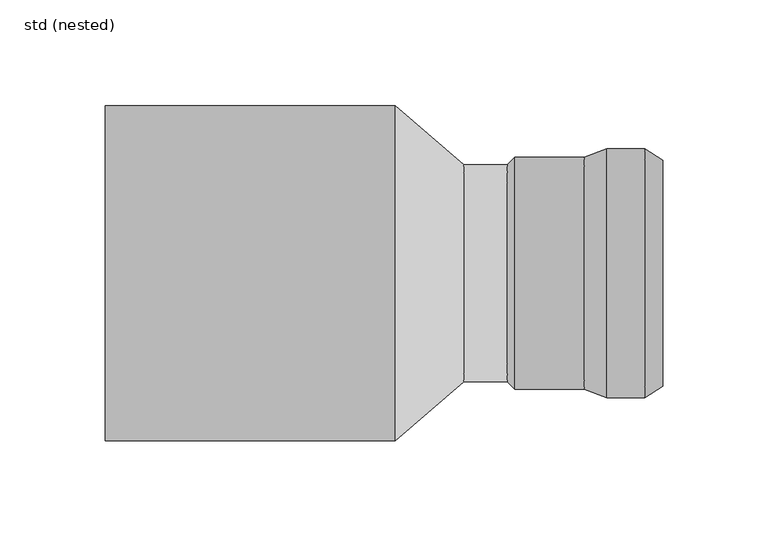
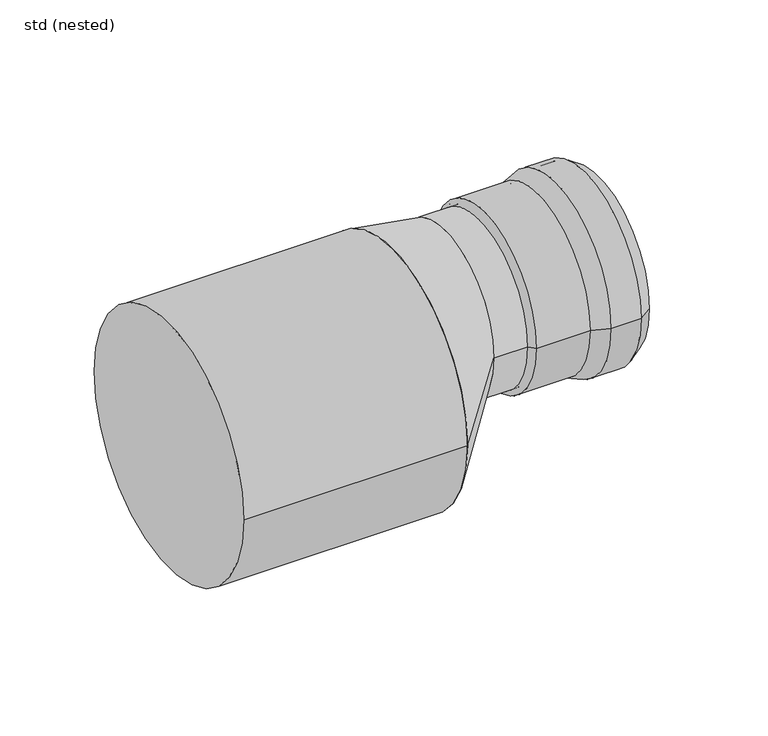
"""IFC4 building model written with IfcOpenShell, lengths in millimetres: pipe fitting geometry, ZZZ_do not use_PIF_ST_UN_GM-X transition element_ACO : std (nested)."""

from ifc_helpers import new_model, si_unit, point, frame, frame_2d, origin, origin_2d, place, context, project, spatial, polyline, circle_curve, trimmed, segment, composite_curve, outline, extrude, source, transform, mapped, element, save
from ifc_brep_helpers import plane_surface, cylinder_surface, revolved_surface, spline_surface, advanced_brep


def std_nested_30a605e0(model_context):
    return source(origin(), model_context, "Body", "SolidModel", [
        advanced_brep(
        [(140.5, -59.0, 28.5), (140.5, 59.0, 28.5), (158.7, 59.0, 28.5), (158.7, -59.0, 28.5), (130.0, -55.0, 28.5), (130.0, 55.0, 28.5), (167.0, 53.5, 28.5), (167.0, -53.5, 28.5), (97.0, -55.0, 28.5), (97.0, 55.0, 28.5), (93.5, -51.5, 28.5), (93.5, 51.5, 28.5), (97.0, -51.5, 28.5), (97.0, 51.5, 28.5), (130.3680513, -53.0, 28.5), (130.3680513, 53.0, 28.5), (97.0, 53.0, 28.5), (97.0, -53.0, 28.5), (140.8680513, -57.0, 28.5), (140.8680513, 57.0, 28.5), (158.0974883, -57.0, 28.5), (158.0974883, 57.0, 28.5), (165.8952393, -51.8328156, 28.5), (165.8952393, 51.8328156, 28.5)],
        [
            (0, 1, circle_curve(frame((140.5, 0.0, 28.5), z_axis=(1.0, 0.0, 0.0), x_axis=(0.0, 1.0, 0.0)), 59.0)),
            (1, 2),
            (2, 3, circle_curve(frame((158.7, 0.0, 28.5), z_axis=(-1.0, 0.0, 0.0), x_axis=(0.0, 1.0, 0.0)), 59.0)),
            (3, 0),
            (1, 0, circle_curve(frame((140.5, 0.0, 28.5), z_axis=(1.0, 0.0, 0.0), x_axis=(0.0, 1.0, 0.0)), 59.0)),
            (3, 2, circle_curve(frame((158.7, 0.0, 28.5), z_axis=(-1.0, 0.0, 0.0), x_axis=(0.0, 1.0, 0.0)), 59.0)),
            (4, 5, circle_curve(frame((130.0, 0.0, 28.5), z_axis=(1.0, 0.0, 0.0), x_axis=(0.0, 1.0, 0.0)), 55.0)),
            (5, 1),
            (0, 4),
            (5, 4, circle_curve(frame((130.0, 0.0, 28.5), z_axis=(1.0, 0.0, 0.0), x_axis=(0.0, 1.0, 0.0)), 55.0)),
            (2, 6),
            (6, 7, circle_curve(frame((167.0, 0.0, 28.5), z_axis=(-1.0, 0.0, 0.0), x_axis=(0.0, 1.0, 0.0)), 53.5)),
            (7, 3),
            (7, 6, circle_curve(frame((167.0, 0.0, 28.5), z_axis=(-1.0, 0.0, 0.0), x_axis=(0.0, 1.0, 0.0)), 53.5)),
            (8, 9, circle_curve(frame((97.0, 0.0, 28.5), z_axis=(1.0, 0.0, 0.0), x_axis=(0.0, 1.0, 0.0)), 55.0)),
            (9, 5),
            (4, 8),
            (9, 8, circle_curve(frame((97.0, 0.0, 28.5), z_axis=(1.0, 0.0, 0.0), x_axis=(0.0, 1.0, 0.0)), 55.0)),
            (10, 11, circle_curve(frame((93.5, 0.0, 28.5), z_axis=(1.0, 0.0, 0.0), x_axis=(0.0, 1.0, 0.0)), 51.5)),
            (11, 9),
            (8, 10),
            (11, 10, circle_curve(frame((93.5, 0.0, 28.5), z_axis=(1.0, 0.0, 0.0), x_axis=(0.0, 1.0, 0.0)), 51.5)),
            (12, 13, circle_curve(frame((97.0, 0.0, 28.5), z_axis=(1.0, 0.0, 0.0), x_axis=(0.0, 1.0, 0.0)), 51.5)),
            (13, 11),
            (10, 12),
            (13, 12, circle_curve(frame((97.0, 0.0, 28.5), z_axis=(1.0, 0.0, 0.0), x_axis=(0.0, 1.0, 0.0)), 51.5)),
            (14, 15, circle_curve(frame((130.3680513, 0.0, 28.5), z_axis=(1.0, 0.0, 0.0), x_axis=(0.0, 1.0, 0.0)), 53.0)),
            (15, 16),
            (16, 17, circle_curve(frame((97.0, 0.0, 28.5), z_axis=(-1.0, 0.0, 0.0), x_axis=(0.0, 1.0, 0.0)), 53.0)),
            (17, 14),
            (15, 14, circle_curve(frame((130.3680513, 0.0, 28.5), z_axis=(1.0, 0.0, 0.0), x_axis=(0.0, 1.0, 0.0)), 53.0)),
            (17, 16, circle_curve(frame((97.0, 0.0, 28.5), z_axis=(-1.0, 0.0, 0.0), x_axis=(0.0, 1.0, 0.0)), 53.0)),
            (18, 19, circle_curve(frame((140.8680513, 0.0, 28.5), z_axis=(1.0, 0.0, 0.0), x_axis=(0.0, 1.0, 0.0)), 57.0)),
            (19, 15),
            (14, 18),
            (19, 18, circle_curve(frame((140.8680513, 0.0, 28.5), z_axis=(1.0, 0.0, 0.0), x_axis=(0.0, 1.0, 0.0)), 57.0)),
            (20, 21, circle_curve(frame((158.0974883, 0.0, 28.5), z_axis=(1.0, 0.0, 0.0), x_axis=(0.0, 1.0, 0.0)), 57.0)),
            (21, 19),
            (18, 20),
            (21, 20, circle_curve(frame((158.0974883, 0.0, 28.5), z_axis=(1.0, 0.0, 0.0), x_axis=(0.0, 1.0, 0.0)), 57.0)),
            (22, 23, circle_curve(frame((165.8952393, 0.0, 28.5), z_axis=(1.0, 0.0, 0.0), x_axis=(0.0, 1.0, 0.0)), 51.8328156)),
            (23, 21),
            (20, 22),
            (23, 22, circle_curve(frame((165.8952393, 0.0, 28.5), z_axis=(1.0, 0.0, 0.0), x_axis=(0.0, 1.0, 0.0)), 51.8328156)),
            (6, 23),
            (22, 7),
            (16, 13),
            (12, 17),
        ],
        [
            cylinder_surface(frame((163.6444117, 0.0, 28.5), z_axis=(-1.0, 0.0, 0.0), x_axis=(0.0, 1.0, 0.0)), 59.0),
            revolved_surface(polyline([(140.5, 59.0, 28.5), (130.0, 55.0, 28.5)]), (163.6444117, 0.0, 28.5), (-1.0, 0.0, 0.0)),
            revolved_surface(polyline([(167.0, 53.5, 28.5), (158.7, 59.0, 28.5)]), (163.6444117, 0.0, 28.5), (-1.0, 0.0, 0.0)),
            cylinder_surface(frame((163.6444117, 0.0, 28.5), z_axis=(-1.0, 0.0, 0.0), x_axis=(0.0, 1.0, 0.0)), 55.0),
            revolved_surface(polyline([(97.0, 55.0, 28.5), (93.5, 51.5, 28.5)]), (163.6444117, 0.0, 28.5), (-1.0, 0.0, 0.0)),
            revolved_surface(polyline([(93.5, 51.5, 28.5), (97.0, 51.5, 28.5)]), (163.6444117, 0.0, 28.5), (-1.0, 0.0, 0.0)),
            revolved_surface(polyline([(97.0, 53.0, 28.5), (130.3680513, 53.0, 28.5)]), (163.6444117, 0.0, 28.5), (-1.0, 0.0, 0.0)),
            revolved_surface(polyline([(130.3680513, 53.0, 28.5), (140.8680513, 57.0, 28.5)]), (163.6444117, 0.0, 28.5), (-1.0, 0.0, 0.0)),
            revolved_surface(polyline([(140.8680513, 57.0, 28.5), (158.0974883, 57.0, 28.5)]), (163.6444117, 0.0, 28.5), (-1.0, 0.0, 0.0)),
            revolved_surface(polyline([(158.0974883, 57.0, 28.5), (165.8952393, 51.8328156, 28.5)]), (163.6444117, 0.0, 28.5), (-1.0, 0.0, 0.0)),
            revolved_surface(polyline([(165.8952393, 51.8328156, 28.5), (167.0, 53.5, 28.5)]), (163.6444117, 0.0, 28.5), (-1.0, 0.0, 0.0)),
            plane_surface(frame((97.0, 0.0, 28.5), z_axis=(1.0, 0.0, 0.0), x_axis=(0.0, 1.0, 0.0))),
        ],
        [
            (0, [[1, 2, 3, 4]]),
            (0, [[5, -4, 6, -2]]),
            (1, [[7, 8, -1, 9]]),
            (1, [[10, -9, -5, -8]]),
            (2, [[-3, 11, 12, 13]]),
            (2, [[-6, -13, 14, -11]]),
            (3, [[15, 16, -7, 17]]),
            (3, [[18, -17, -10, -16]]),
            (4, [[19, 20, -15, 21]]),
            (4, [[22, -21, -18, -20]]),
            (5, [[23, 24, -19, 25]]),
            (5, [[26, -25, -22, -24]]),
            (6, [[27, 28, 29, 30]]),
            (6, [[31, -30, 32, -28]]),
            (7, [[33, 34, -27, 35]]),
            (7, [[36, -35, -31, -34]]),
            (8, [[37, 38, -33, 39]]),
            (8, [[40, -39, -36, -38]]),
            (9, [[41, 42, -37, 43]]),
            (9, [[44, -43, -40, -42]]),
            (10, [[-12, 45, -41, 46]]),
            (10, [[-14, -46, -44, -45]]),
            (11, [[-29, 47, -23, 48]]),
            (11, [[-32, -48, -26, -47]]),
        ],
    ),
        advanced_brep(
        [(72.75, -51.5, 28.5), (72.75, 51.5, 28.5), (40.4166667, -79.5, 0.0), (40.4166667, 79.5, 0.0)],
        [
            (0, 1, circle_curve(frame((72.75, 0.0, 28.5), z_axis=(1.0, 0.0, 0.0), x_axis=(0.0, 1.0, 0.0)), 51.5)),
            (1, 0, circle_curve(frame((72.75, 0.0, 28.5), z_axis=(1.0, 0.0, 0.0), x_axis=(0.0, 1.0, 0.0)), 51.5)),
            (2, 3, circle_curve(frame((40.4166667, 0.0, 0.0), z_axis=(-1.0, 0.0, 0.0), x_axis=(0.0, 1.0, 0.0)), 79.5)),
            (3, 2, circle_curve(frame((40.4166667, 0.0, 0.0), z_axis=(-1.0, 0.0, 0.0), x_axis=(0.0, 1.0, 0.0)), 79.5)),
            (3, 1),
            (0, 2),
        ],
        [
            plane_surface(frame((72.75, 0.0, 28.5), z_axis=(1.0, 0.0, 0.0), x_axis=(0.0, 0.0, -1.0))),
            plane_surface(frame((40.4166667, 0.0, 0.0), z_axis=(-1.0, 0.0, 0.0), x_axis=(0.0, 0.0, -1.0))),
            spline_surface(2, 1, [[(40.4166667, -79.5, 0.0), (72.75, -51.5, 28.5)], [(40.4166667, -79.5, -79.5), (72.75, -51.5, -23.0)], [(40.4166667, 0.0, -79.5), (72.75, 0.0, -23.0)], [(40.4166667, 79.5, -79.5), (72.75, 51.5, -23.0)], [(40.4166667, 79.5, 0.0), (72.75, 51.5, 28.5)]], [3, 2, 3], [2, 2], [0.0, 1.0, 2.0], [0.0, 1.0], weights=[[1.0, 1.0], [0.7071067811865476, 0.7071067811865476], [1.0, 1.0], [0.7071067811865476, 0.7071067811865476], [1.0, 1.0]]),
            spline_surface(2, 1, [[(40.4166667, 79.5, 0.0), (72.75, 51.5, 28.5)], [(40.4166667, 79.5, 79.5), (72.75, 51.5, 80.0)], [(40.4166667, 0.0, 79.5), (72.75, 0.0, 80.0)], [(40.4166667, -79.5, 79.5), (72.75, -51.5, 80.0)], [(40.4166667, -79.5, 0.0), (72.75, -51.5, 28.5)]], [3, 2, 3], [2, 2], [0.0, 1.0, 2.0], [0.0, 1.0], weights=[[1.0, 1.0], [0.7071067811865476, 0.7071067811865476], [1.0, 1.0], [0.7071067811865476, 0.7071067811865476], [1.0, 1.0]]),
        ],
        [
            (0, [[1, 2]]),
            (1, [[3, 4]]),
            (2, [[-4, 5, -1, 6]]),
            (3, [[-3, -6, -2, -5]]),
        ],
    ),
        extrude(outline(composite_curve([segment(trimmed(circle_curve(frame_2d((0.0, 28.5)), 51.5), [point((51.5, 28.5))], [point((-51.5, 28.5))], False, "CARTESIAN"), True, "CONTINUOUS"), segment(trimmed(circle_curve(frame_2d((0.0, 28.5)), 51.5), [point((-51.5, 28.5))], [point((51.5, 28.5))], False, "CARTESIAN"), True, "CONTINUOUS")], self_intersect=False)), frame((72.75, 0.0, 0.0), z_axis=(1.0, 0.0, 0.0), x_axis=(0.0, 1.0, 0.0)), (0.0, 0.0, 1.0), 24.25),
        extrude(outline(composite_curve([segment(trimmed(circle_curve(origin_2d(), 79.5), [point((-79.5, 0.0))], [point((79.5, 0.0))], False, "CARTESIAN"), True, "CONTINUOUS"), segment(trimmed(circle_curve(origin_2d(), 79.5), [point((79.5, 0.0))], [point((-79.5, 0.0))], False, "CARTESIAN"), True, "CONTINUOUS")], self_intersect=False)), frame((-97.0, 0.0, 0.0), z_axis=(1.0, 0.0, 0.0), x_axis=(0.0, 1.0, 0.0)), (0.0, 0.0, 1.0), 137.4166667),
    ])


if __name__ == "__main__":
    model = new_model("IFC4")
    model_context = context("Model", 3, world=origin())
    ifc_project = project(units=[si_unit("LENGTHUNIT", "METRE", prefix="MILLI")], contexts=[model_context])
    site = spatial("IfcSite", under=ifc_project)
    building = spatial("IfcBuilding", under=site)
    placement = place(None, origin())
    std_nested_shape = std_nested_30a605e0(model_context)
    element("IfcPipeFitting", 1, ObjectType="ZZZ_do not use_PIF_ST_UN_GM-X transition element_ACO : std (nested)", at=placement, inside=building, context=model_context, shape_type="MappedRepresentation", body=[
        mapped(std_nested_shape, transform((0.0, 0.0, 0.0), x_axis=(1.0, 0.0, 0.0), y_axis=(0.0, 1.0, 0.0), z_axis=(0.0, 0.0, 1.0))),
    ])
    save(model, "model.ifc")
